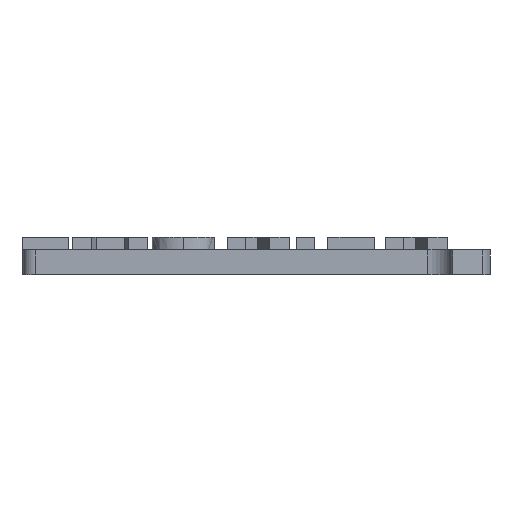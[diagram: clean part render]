
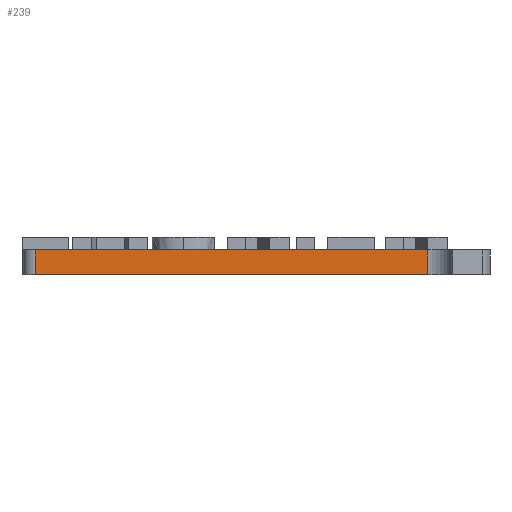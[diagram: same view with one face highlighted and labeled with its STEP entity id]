
A CAD part, front view. The second image highlights one B-rep face of the part: STEP entity #239.
In plain terms, the highlighted planar face has unit normal (0, -1, 0).
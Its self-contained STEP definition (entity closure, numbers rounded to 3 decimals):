
#239=ADVANCED_FACE('',(#516),#517,.T.);
#516=FACE_OUTER_BOUND('',#835,.T.);
#517=PLANE('',#836);
#835=EDGE_LOOP('',(#1578,#1579,#1580,#1581));
#836=AXIS2_PLACEMENT_3D('',#1582,#1583,#1584);
#1578=ORIENTED_EDGE('',*,*,#2272,.T.);
#1579=ORIENTED_EDGE('',*,*,#2339,.T.);
#1580=ORIENTED_EDGE('',*,*,#2324,.F.);
#1581=ORIENTED_EDGE('',*,*,#2340,.T.);
#1582=CARTESIAN_POINT('',(-20.25,-3.0,0.0));
#1583=DIRECTION('',(0.,-1.0,0.0));
#1584=DIRECTION('',(1.0,0.,0.0));
#2272=EDGE_CURVE('',#2814,#2812,#2815,.T.);
#2324=EDGE_CURVE('',#2904,#2906,#2907,.T.);
#2339=EDGE_CURVE('',#2812,#2906,#2930,.T.);
#2340=EDGE_CURVE('',#2904,#2814,#2931,.F.);
#2812=VERTEX_POINT('',#3642);
#2814=VERTEX_POINT('',#3644);
#2815=LINE('',#3645,#3646);
#2904=VERTEX_POINT('',#3809);
#2906=VERTEX_POINT('',#3811);
#2907=LINE('',#3812,#3813);
#2930=LINE('',#3845,#3846);
#2931=LINE('',#3847,#3848);
#3642=CARTESIAN_POINT('',(-5.0,-3.0,0.0));
#3644=CARTESIAN_POINT('',(-36.5,-3.0,0.0));
#3645=CARTESIAN_POINT('',(-20.25,-3.0,0.0));
#3646=VECTOR('',#4234,1.0);
#3809=CARTESIAN_POINT('',(-36.5,-3.0,2.0));
#3811=CARTESIAN_POINT('',(-5.0,-3.0,2.0));
#3812=CARTESIAN_POINT('',(-20.25,-3.0,2.0));
#3813=VECTOR('',#4279,1.0);
#3845=CARTESIAN_POINT('',(-5.0,-3.0,2.0));
#3846=VECTOR('',#4298,1.0);
#3847=CARTESIAN_POINT('',(-36.5,-3.0,0.0));
#3848=VECTOR('',#4299,1.0);
#4234=DIRECTION('',(1.0,0.,0.0));
#4279=DIRECTION('',(1.0,0.,0.0));
#4298=DIRECTION('',(0.0,0.0,1.0));
#4299=DIRECTION('',(0.0,0.0,1.0));
